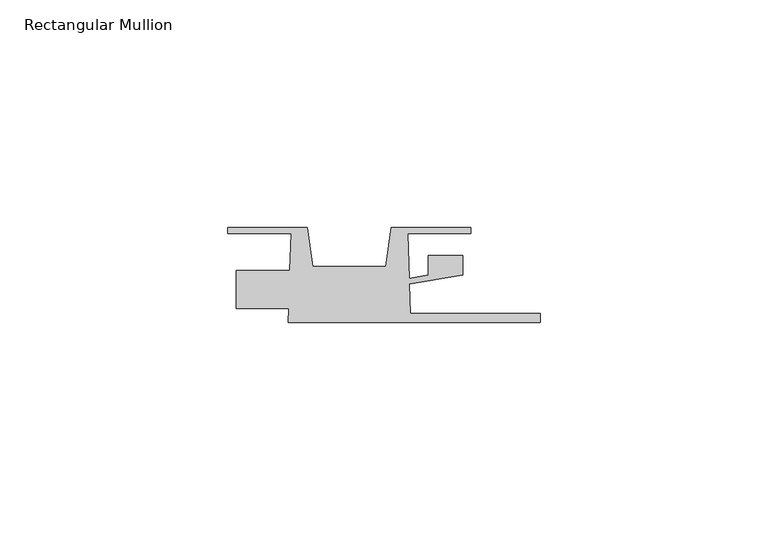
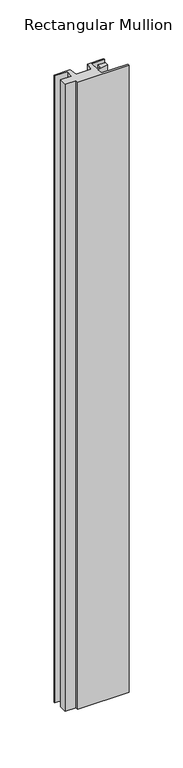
"""IFC4 building model written with IfcOpenShell, lengths in millimetres: member geometry, Rectangular Mullion : QuickPanel-Reveal_Projecting-Window-Jamb-Trim-Left."""

from ifc_helpers import new_model, si_unit, frame, origin, place, context, project, spatial, polyline, outline, extrude, source, transform, mapped, element, save


def rectangular_mullion_0b3a4293(model_context):
    return source(origin(), model_context, "Body", "SweptSolid", [
        extrude(outline(polyline([(-13.4553134, -8.6293878), (-13.3461013, -5.5019641), (-24.8465405, -5.5019641), (-24.8465405, 2.766947), (-13.0573446, 2.766947), (-12.7722714, 10.9303752), (-26.6286248, 10.9303752), (-26.6286248, 12.1803727), (-9.1947632, 12.1803727), (-8.0060455, 3.7222065), (8.0060455, 3.7222065), (9.1947632, 12.1803727), (26.5896522, 12.1803727), (26.5896522, 10.9303752), (12.7595465, 10.9303752), (13.1035451, 1.0795423), (17.2623469, 1.7924942), (17.2623469, 6.096), (24.8382072, 6.096), (24.8382072, 1.8027151), (13.1482736, -0.2013141), (13.3749872, -6.6935423), (41.8284595, -6.6935423), (41.8284595, -8.6293878), (-13.4553134, -8.6293878)])), frame((0.0, 0.0, -708.7639248), z_axis=(0.0, 0.0, 1.0), x_axis=(1.0, 0.0, 0.0)), (0.0, 0.0, 1.0), 708.7639248),
    ])


if __name__ == "__main__":
    model = new_model("IFC4")
    model_context = context("Model", 3, world=origin())
    ifc_project = project(units=[si_unit("LENGTHUNIT", "METRE", prefix="MILLI")], contexts=[model_context])
    site = spatial("IfcSite", under=ifc_project)
    building = spatial("IfcBuilding", under=site)
    placement = place(None, origin())
    rectangular_mullion_shape = rectangular_mullion_0b3a4293(model_context)
    element("IfcMember", 1, ObjectType="Rectangular Mullion : QuickPanel-Reveal_Projecting-Window-Jamb-Trim-Left", at=placement, inside=building, context=model_context, shape_type="MappedRepresentation", body=[
        mapped(rectangular_mullion_shape, transform((0.0, 0.0, 0.0), x_axis=(1.0, 0.0, 0.0), y_axis=(0.0, 1.0, 0.0), z_axis=(0.0, 0.0, 1.0))),
    ])
    save(model, "model.ifc")
